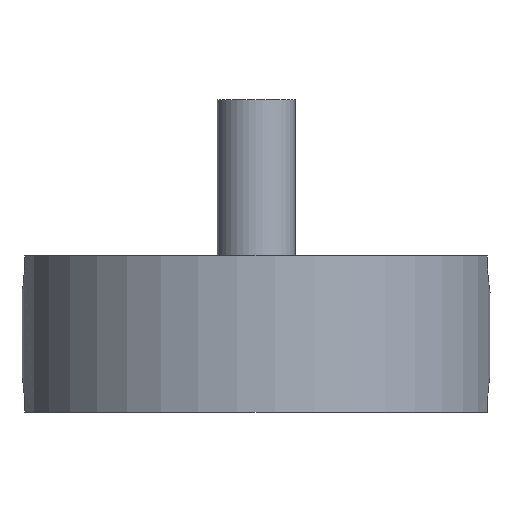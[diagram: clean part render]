
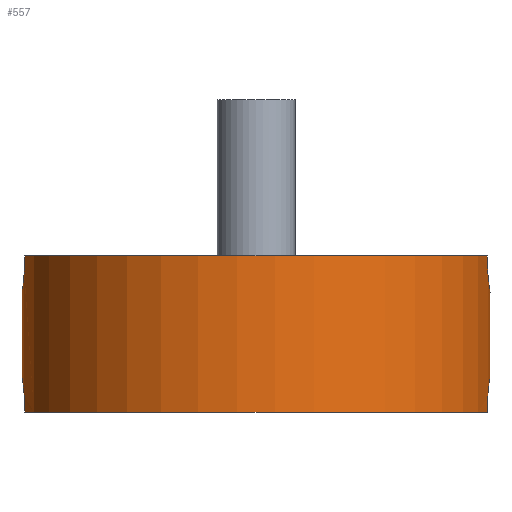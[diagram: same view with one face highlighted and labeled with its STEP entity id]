
A CAD part, front view. The second image highlights one B-rep face of the part: STEP entity #557.
In plain terms, the highlighted cylindrical face has radius 38.1 mm (diameter 76.2 mm), a full revolution.
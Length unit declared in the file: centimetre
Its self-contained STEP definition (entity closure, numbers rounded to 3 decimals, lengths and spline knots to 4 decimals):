
#422=VERTEX_POINT('',#1136);
#423=VERTEX_POINT('',#1138);
#424=VERTEX_POINT('',#1141);
#425=VERTEX_POINT('',#1178);
#426=VERTEX_POINT('',#1181);
#427=VERTEX_POINT('',#1183);
#428=VERTEX_POINT('',#1186);
#429=VERTEX_POINT('',#1233);
#436=B_SPLINE_CURVE_WITH_KNOTS('',3,(#1142,#1143,#1144,#1145,#1146,#1147,
#1148,#1149,#1150,#1151,#1152,#1153,#1154,#1155,#1156,#1157,#1158,#1159),
.UNSPECIFIED.,.F.,.U.,(4,2,2,2,2,2,2,2,4),(0.,0.2215,0.443,
0.6645,0.886,1.1075,1.329,1.5505,
1.772),.UNSPECIFIED.);
#437=B_SPLINE_CURVE_WITH_KNOTS('',3,(#1160,#1161,#1162,#1163,#1164,#1165,
#1166,#1167,#1168,#1169,#1170,#1171,#1172,#1173,#1174,#1175,#1176,#1177),
.UNSPECIFIED.,.F.,.U.,(4,2,2,2,2,2,2,2,4),(-1.772,-1.5505,
-1.329,-1.1075,-0.886,-0.6645,
-0.443,-0.2215,0.),.UNSPECIFIED.);
#438=B_SPLINE_CURVE_WITH_KNOTS('',3,(#1187,#1188,#1189,#1190,#1191,#1192,
#1193,#1194,#1195,#1196,#1197,#1198,#1199,#1200,#1201,#1202,#1203,#1204,
#1205,#1206,#1207,#1208,#1209),.UNSPECIFIED.,.F.,.U.,(4,2,2,2,2,2,2,2,2,
3,4),(-1.7839,-1.772,-1.5505,-1.329,
-1.1075,-0.886,-0.6645,-0.443,
-0.2215,0.,0.0119),.UNSPECIFIED.);
#439=B_SPLINE_CURVE_WITH_KNOTS('',3,(#1210,#1211,#1212,#1213,#1214,#1215,
#1216,#1217,#1218,#1219,#1220,#1221,#1222,#1223,#1224,#1225,#1226,#1227,
#1228,#1229,#1230,#1231,#1232),.UNSPECIFIED.,.F.,.U.,(4,3,2,2,2,2,2,2,2,
2,4),(-0.0119,0.,0.2215,0.443,0.6645,
0.886,1.1075,1.329,1.5505,1.772,
1.7839),.UNSPECIFIED.);
#449=EDGE_CURVE('',#423,#422,#693,.T.);
#452=EDGE_CURVE('',#422,#424,#436,.T.);
#453=EDGE_CURVE('',#425,#423,#437,.T.);
#456=EDGE_CURVE('',#427,#426,#694,.T.);
#459=EDGE_CURVE('',#426,#428,#438,.T.);
#460=EDGE_CURVE('',#429,#427,#439,.T.);
#462=EDGE_CURVE('',#428,#429,#694,.T.);
#463=EDGE_CURVE('',#424,#425,#693,.T.);
#498=ORIENTED_EDGE('',*,*,#460,.T.);
#499=ORIENTED_EDGE('',*,*,#456,.T.);
#500=ORIENTED_EDGE('',*,*,#459,.T.);
#501=ORIENTED_EDGE('',*,*,#462,.T.);
#502=ORIENTED_EDGE('',*,*,#453,.T.);
#503=ORIENTED_EDGE('',*,*,#449,.T.);
#504=ORIENTED_EDGE('',*,*,#452,.T.);
#505=ORIENTED_EDGE('',*,*,#463,.T.);
#526=EDGE_LOOP('',(#498,#499,#500,#501));
#527=EDGE_LOOP('',(#502,#503,#504,#505));
#542=FACE_BOUND('',#526,.T.);
#543=FACE_BOUND('',#527,.T.);
#557=ADVANCED_FACE('',(#542,#543),#566,.T.);
#566=CYLINDRICAL_SURFACE('',#809,3.81);
#693=CIRCLE('',#804,3.81);
#694=CIRCLE('',#807,3.81);
#804=AXIS2_PLACEMENT_3D('',#1137,#1299,#1300);
#807=AXIS2_PLACEMENT_3D('',#1182,#1306,#1307);
#809=AXIS2_PLACEMENT_3D('',#1234,#1311,#1312);
#1136=CARTESIAN_POINT('',(-3.7645,0.587,0.));
#1137=CARTESIAN_POINT('',(0.,0.,0.));
#1138=CARTESIAN_POINT('',(3.7645,0.587,0.));
#1141=CARTESIAN_POINT('',(-3.7645,-0.587,0.));
#1142=CARTESIAN_POINT('',(-3.7645,0.587,0.));
#1143=CARTESIAN_POINT('',(-3.7645,0.587,0.0738));
#1144=CARTESIAN_POINT('',(-3.7669,0.5722,0.1525));
#1145=CARTESIAN_POINT('',(-3.7755,0.5123,0.2971));
#1146=CARTESIAN_POINT('',(-3.7816,0.4671,0.363));
#1147=CARTESIAN_POINT('',(-3.793,0.363,0.4671));
#1148=CARTESIAN_POINT('',(-3.7991,0.2971,0.5123));
#1149=CARTESIAN_POINT('',(-3.8076,0.1525,0.5722));
#1150=CARTESIAN_POINT('',(-3.81,0.0738,0.587));
#1151=CARTESIAN_POINT('',(-3.81,-0.0738,0.587));
#1152=CARTESIAN_POINT('',(-3.8076,-0.1525,0.5722));
#1153=CARTESIAN_POINT('',(-3.7991,-0.2971,0.5123));
#1154=CARTESIAN_POINT('',(-3.793,-0.363,0.4671));
#1155=CARTESIAN_POINT('',(-3.7816,-0.4671,0.363));
#1156=CARTESIAN_POINT('',(-3.7755,-0.5123,0.2971));
#1157=CARTESIAN_POINT('',(-3.7669,-0.5722,0.1525));
#1158=CARTESIAN_POINT('',(-3.7645,-0.587,0.0738));
#1159=CARTESIAN_POINT('',(-3.7645,-0.587,0.));
#1160=CARTESIAN_POINT('',(3.7645,-0.587,0.));
#1161=CARTESIAN_POINT('',(3.7645,-0.587,0.0738));
#1162=CARTESIAN_POINT('',(3.7669,-0.5722,0.1525));
#1163=CARTESIAN_POINT('',(3.7755,-0.5123,0.2971));
#1164=CARTESIAN_POINT('',(3.7816,-0.4671,0.363));
#1165=CARTESIAN_POINT('',(3.793,-0.363,0.4671));
#1166=CARTESIAN_POINT('',(3.7991,-0.2971,0.5123));
#1167=CARTESIAN_POINT('',(3.8076,-0.1525,0.5722));
#1168=CARTESIAN_POINT('',(3.81,-0.0738,0.587));
#1169=CARTESIAN_POINT('',(3.81,0.0738,0.587));
#1170=CARTESIAN_POINT('',(3.8076,0.1525,0.5722));
#1171=CARTESIAN_POINT('',(3.7991,0.2971,0.5123));
#1172=CARTESIAN_POINT('',(3.793,0.363,0.4671));
#1173=CARTESIAN_POINT('',(3.7816,0.4671,0.363));
#1174=CARTESIAN_POINT('',(3.7755,0.5123,0.2971));
#1175=CARTESIAN_POINT('',(3.7669,0.5722,0.1525));
#1176=CARTESIAN_POINT('',(3.7645,0.587,0.0738));
#1177=CARTESIAN_POINT('',(3.7645,0.587,0.));
#1178=CARTESIAN_POINT('',(3.7645,-0.587,0.));
#1181=CARTESIAN_POINT('',(-3.7645,-0.5869,2.54));
#1182=CARTESIAN_POINT('',(0.,0.,2.54));
#1183=CARTESIAN_POINT('',(3.7645,-0.5869,2.54));
#1186=CARTESIAN_POINT('',(-3.7645,0.5869,2.54));
#1187=CARTESIAN_POINT('',(-3.7645,-0.5869,2.54));
#1188=CARTESIAN_POINT('',(-3.7645,-0.587,2.536));
#1189=CARTESIAN_POINT('',(-3.7645,-0.587,2.532));
#1190=CARTESIAN_POINT('',(-3.7645,-0.587,2.4542));
#1191=CARTESIAN_POINT('',(-3.7669,-0.5722,2.3756));
#1192=CARTESIAN_POINT('',(-3.7755,-0.5123,2.231));
#1193=CARTESIAN_POINT('',(-3.7816,-0.4671,2.165));
#1194=CARTESIAN_POINT('',(-3.793,-0.363,2.0609));
#1195=CARTESIAN_POINT('',(-3.7991,-0.2971,2.0158));
#1196=CARTESIAN_POINT('',(-3.8076,-0.1525,1.9558));
#1197=CARTESIAN_POINT('',(-3.81,-0.0738,1.941));
#1198=CARTESIAN_POINT('',(-3.81,0.0738,1.941));
#1199=CARTESIAN_POINT('',(-3.8076,0.1525,1.9558));
#1200=CARTESIAN_POINT('',(-3.7991,0.2971,2.0158));
#1201=CARTESIAN_POINT('',(-3.793,0.363,2.0609));
#1202=CARTESIAN_POINT('',(-3.7816,0.4671,2.165));
#1203=CARTESIAN_POINT('',(-3.7755,0.5123,2.231));
#1204=CARTESIAN_POINT('',(-3.7669,0.5722,2.3756));
#1205=CARTESIAN_POINT('',(-3.7645,0.587,2.4542));
#1206=CARTESIAN_POINT('',(-3.7645,0.587,2.5281));
#1207=CARTESIAN_POINT('',(-3.7645,0.587,2.532));
#1208=CARTESIAN_POINT('',(-3.7645,0.587,2.536));
#1209=CARTESIAN_POINT('',(-3.7645,0.5869,2.54));
#1210=CARTESIAN_POINT('',(3.7645,0.5869,2.54));
#1211=CARTESIAN_POINT('',(3.7645,0.587,2.536));
#1212=CARTESIAN_POINT('',(3.7645,0.587,2.532));
#1213=CARTESIAN_POINT('',(3.7645,0.587,2.5281));
#1214=CARTESIAN_POINT('',(3.7645,0.587,2.4542));
#1215=CARTESIAN_POINT('',(3.7669,0.5722,2.3756));
#1216=CARTESIAN_POINT('',(3.7755,0.5123,2.231));
#1217=CARTESIAN_POINT('',(3.7816,0.4671,2.165));
#1218=CARTESIAN_POINT('',(3.793,0.363,2.0609));
#1219=CARTESIAN_POINT('',(3.7991,0.2971,2.0158));
#1220=CARTESIAN_POINT('',(3.8076,0.1525,1.9558));
#1221=CARTESIAN_POINT('',(3.81,0.0738,1.941));
#1222=CARTESIAN_POINT('',(3.81,-0.0738,1.941));
#1223=CARTESIAN_POINT('',(3.8076,-0.1525,1.9558));
#1224=CARTESIAN_POINT('',(3.7991,-0.2971,2.0158));
#1225=CARTESIAN_POINT('',(3.793,-0.363,2.0609));
#1226=CARTESIAN_POINT('',(3.7816,-0.4671,2.165));
#1227=CARTESIAN_POINT('',(3.7755,-0.5123,2.231));
#1228=CARTESIAN_POINT('',(3.7669,-0.5722,2.3756));
#1229=CARTESIAN_POINT('',(3.7645,-0.587,2.4542));
#1230=CARTESIAN_POINT('',(3.7645,-0.587,2.532));
#1231=CARTESIAN_POINT('',(3.7645,-0.587,2.536));
#1232=CARTESIAN_POINT('',(3.7645,-0.5869,2.54));
#1233=CARTESIAN_POINT('',(3.7645,0.5869,2.54));
#1234=CARTESIAN_POINT('',(0.,0.,0.));
#1299=DIRECTION('',(0.,0.,1.));
#1300=DIRECTION('',(3.81,0.,0.));
#1306=DIRECTION('',(0.,0.,-1.));
#1307=DIRECTION('',(3.81,0.,0.));
#1311=DIRECTION('',(0.,0.,1.));
#1312=DIRECTION('',(3.81,0.,0.));
